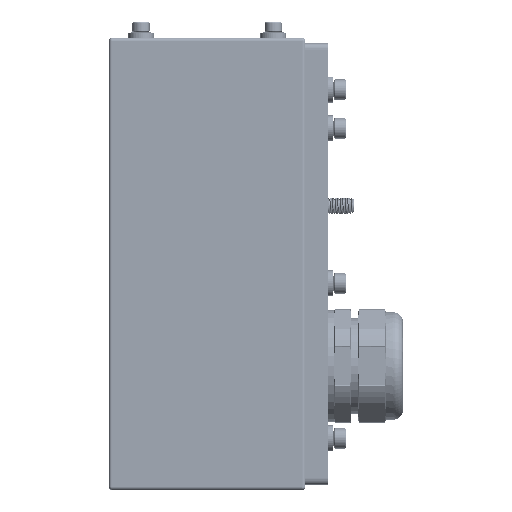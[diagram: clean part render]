
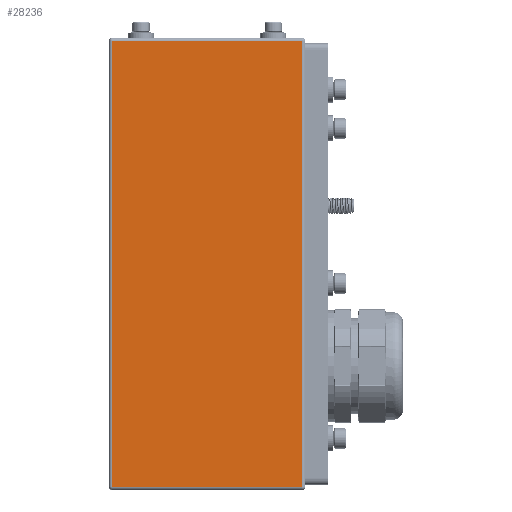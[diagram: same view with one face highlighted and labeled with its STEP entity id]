
A CAD part, left-side view. The second image highlights one B-rep face of the part: STEP entity #28236.
In plain terms, the highlighted planar face has unit normal (-1, 0, 0).
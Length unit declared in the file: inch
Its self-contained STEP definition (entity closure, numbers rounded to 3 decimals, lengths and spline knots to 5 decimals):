
#1126 = LINE ( 'NONE', #31499, #43105 ) ;
#2535 = CARTESIAN_POINT ( 'NONE',  ( -1.9, 3.74, -0.06 ) ) ;
#3018 = CARTESIAN_POINT ( 'NONE',  ( -1.9, 0.06, -8.75 ) ) ;
#3489 = EDGE_CURVE ( 'NONE', #34095, #15181, #1126, .T. ) ;
#6077 = EDGE_CURVE ( 'NONE', #22252, #34095, #40702, .T. ) ;
#9409 = EDGE_LOOP ( 'NONE', ( #27608, #37866, #13266, #35133 ) ) ;
#11124 = FACE_OUTER_BOUND ( 'NONE', #9409, .T. ) ;
#11783 = CARTESIAN_POINT ( 'NONE',  ( -1.9, 3.8, -8.69 ) ) ;
#13266 = ORIENTED_EDGE ( 'NONE', *, *, #6077, .T. ) ;
#13506 = EDGE_CURVE ( 'NONE', #28836, #22252, #36202, .T. ) ;
#14142 = VECTOR ( 'NONE', #44590, 39.37008 ) ;
#14752 = DIRECTION ( 'NONE',  ( 0., 0., -1. ) ) ;
#14855 = VECTOR ( 'NONE', #37116, 39.37008 ) ;
#15181 = VERTEX_POINT ( 'NONE', #2535 ) ;
#20741 = AXIS2_PLACEMENT_3D ( 'NONE', #28912, #35973, #14752 ) ;
#21077 = VECTOR ( 'NONE', #43293, 39.37008 ) ;
#22252 = VERTEX_POINT ( 'NONE', #31754 ) ;
#23215 = CARTESIAN_POINT ( 'NONE',  ( -1.9, 3.74, -8.75 ) ) ;
#25056 = PLANE ( 'NONE',  #20741 ) ;
#26192 = LINE ( 'NONE', #23215, #14855 ) ;
#26741 = CARTESIAN_POINT ( 'NONE',  ( -1.9, 0.06, -0.06 ) ) ;
#27608 = ORIENTED_EDGE ( 'NONE', *, *, #36981, .T. ) ;
#28236 = ADVANCED_FACE ( 'NONE', ( #11124 ), #25056, .F. ) ;
#28544 = DIRECTION ( 'NONE',  ( 0., 1., 0. ) ) ;
#28836 = VERTEX_POINT ( 'NONE', #39666 ) ;
#28912 = CARTESIAN_POINT ( 'NONE',  ( -1.9, 3.8, -8.75 ) ) ;
#31499 = CARTESIAN_POINT ( 'NONE',  ( -1.9, 3.8, -0.06 ) ) ;
#31754 = CARTESIAN_POINT ( 'NONE',  ( -1.9, 0.06, -8.69 ) ) ;
#34095 = VERTEX_POINT ( 'NONE', #26741 ) ;
#35133 = ORIENTED_EDGE ( 'NONE', *, *, #3489, .T. ) ;
#35973 = DIRECTION ( 'NONE',  ( 1., 0., 0. ) ) ;
#36202 = LINE ( 'NONE', #11783, #21077 ) ;
#36981 = EDGE_CURVE ( 'NONE', #15181, #28836, #26192, .T. ) ;
#37116 = DIRECTION ( 'NONE',  ( 0., 0., -1. ) ) ;
#37866 = ORIENTED_EDGE ( 'NONE', *, *, #13506, .T. ) ;
#39666 = CARTESIAN_POINT ( 'NONE',  ( -1.9, 3.74, -8.69 ) ) ;
#40702 = LINE ( 'NONE', #3018, #14142 ) ;
#43105 = VECTOR ( 'NONE', #28544, 39.37008 ) ;
#43293 = DIRECTION ( 'NONE',  ( 0., -1., 0. ) ) ;
#44590 = DIRECTION ( 'NONE',  ( 0., 0., 1. ) ) ;
